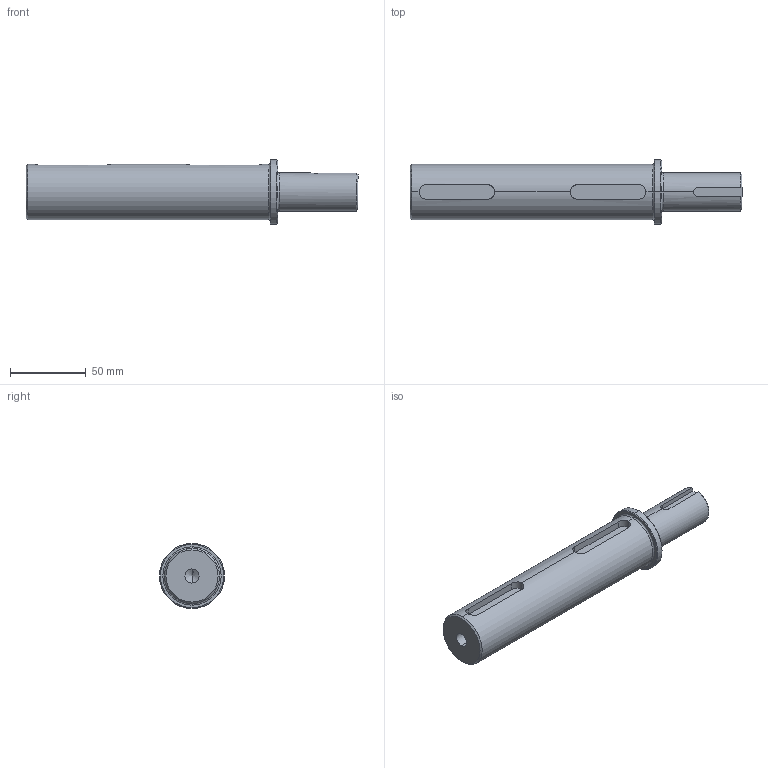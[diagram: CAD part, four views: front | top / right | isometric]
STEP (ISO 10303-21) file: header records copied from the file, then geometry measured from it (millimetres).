
FILE_DESCRIPTION (( 'STEP AP203' ), '1' );
FILE_NAME ('SSHdR206-OPS-S.STEP', '2023-01-07T03:09:21', ( '' ), ( '' ), 'SwSTEP 2.0', 'SolidWorks 2012', '' );
FILE_SCHEMA (( 'CONFIG_CONTROL_DESIGN' ));
Length unit declared in the file: millimetre
Products named in the file (1): SSHdR206-OPS-S
Bounding box: 219.59 x 43 x 43 mm (x, y, z)
Volume: 195763.9 mm3; surface area: 28144.8 mm2
Topology: 1 solids, 1 shells, 41 faces, 97 edges, 59 vertices
Faces by surface type: cylinder 15, plane 13, cone 9, torus 4
Entity records: 1390 total; most frequent: CARTESIAN_POINT 370, DIRECTION 205, ORIENTED_EDGE 190, EDGE_CURVE 95, AXIS2_PLACEMENT_3D 80, VERTEX_POINT 59, VECTOR 45, LINE 45
